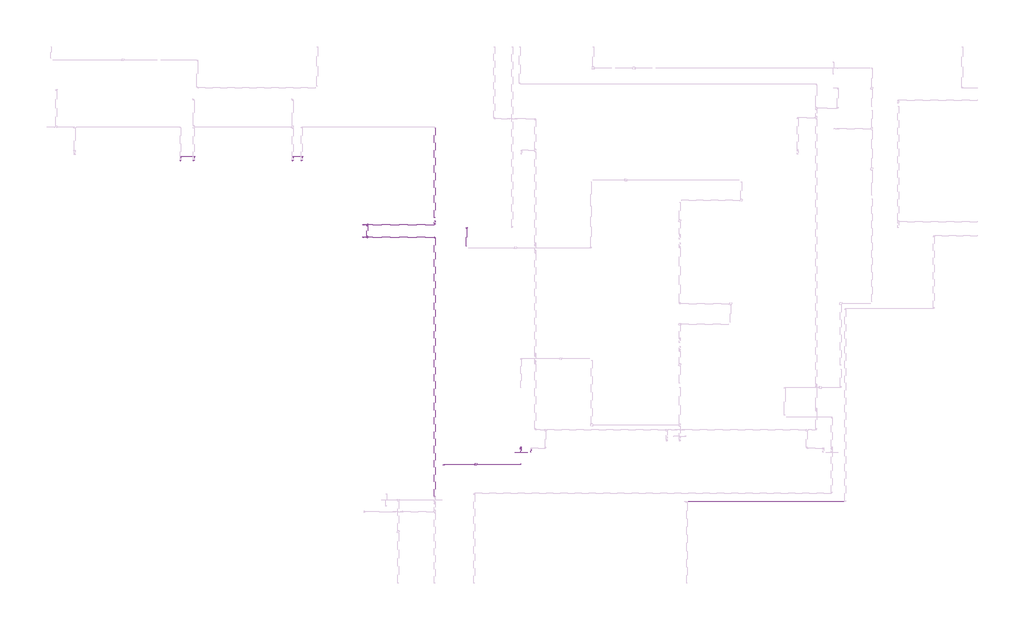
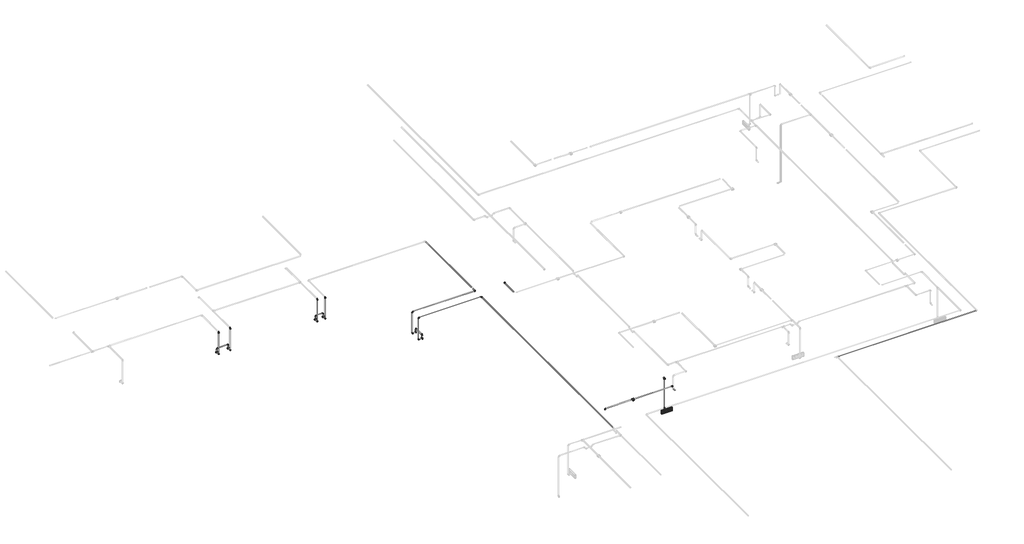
# One storey, part 10 of 40: 33 cable carrier segments, 25 cable carrier fittings, 6 electric appliances, 2 alarms.
"""IFC4 building model written with IfcOpenShell, lengths in millimetres."""

from ifc_helpers import new_model, si_unit, point, frame, frame_2d, origin, place, context, project, spatial, circle_curve, trimmed, segment, composite_curve, outline, extrude, transform, mapped, element, save
from ifc_brep_helpers import plane_surface, cylinder_surface, advanced_brep
from components import alarm_4b7e8fd8, alarm_a2247946, cable_carrier_fitting_69f1a801, cable_carrier_fitting_67f6a775, cable_carrier_fitting_8fd13dfc, electric_appliance_5961a143

model = new_model("IFC4")

# Units and contexts
model_context = context("Model", 3, world=origin())
ifc_project = project(units=[si_unit("LENGTHUNIT", "METRE", prefix="MILLI")], contexts=[model_context])

# Site, building, storey
site = spatial("IfcSite", under=ifc_project)
building = spatial("IfcBuilding", under=site)
storey = spatial("IfcBuildingStorey", under=building, Name="1 этаж", Elevation=0.0)

# Alarms
placement = place(None, origin())
alarm_shape = alarm_4b7e8fd8(model_context)
element("IfcAlarm", 1, ObjectType="RBZ_Оповещатель_Световой_Рубеж_ОПОП1-R3(грань) : ОПОП 1-R3 \"Выход\"", at=placement, inside=storey, context=model_context, shape_type="MappedRepresentation", body=[
    mapped(alarm_shape, transform((8767.6759979, -7495.3629895, 2300.0), x_axis=(1.0, 0.0, 0.0), y_axis=(0.0, 0.0, 1.0), z_axis=(0.0, -1.0, 0.0))),
])
alarm_2_shape = alarm_a2247946(model_context)
element("IfcAlarm", 2, ObjectType="RBZ_ИзоляторШлейфа_Рубеж_ИЗ-1_прот.R3(плоскость) : ИЗ-1 прот.R3", at=placement, inside=storey, context=model_context, shape_type="MappedRepresentation", body=[
    mapped(alarm_2_shape, transform((7660.5729365, -7797.2650251, 3200.0), x_axis=(1.0, 0.0, 0.0), y_axis=(0.0, 1.0, 0.0), z_axis=(0.0, 0.0, 1.0))),
])

# Cable carrier fittings
cable_carrier_fitting_shape = cable_carrier_fitting_69f1a801(model_context)
element("IfcCableCarrierFitting", 3, ObjectType="ADSK_Поворот_Минимальный размер : Неспецифицируемый", at=placement, inside=storey, context=model_context, shape_type="MappedRepresentation", body=[
    mapped(cable_carrier_fitting_shape, transform((6867.6759978, -7797.2650251, 3189.25), x_axis=(-1.0, 0.0, 0.0), y_axis=(0.0, -0.9999999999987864, -1.5579295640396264e-06), z_axis=(0.0, -1.5579295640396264e-06, 0.9999999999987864))),
])
element("IfcCableCarrierFitting", 4, ObjectType="ADSK_Поворот_Минимальный размер : Неспецифицируемый", at=placement, inside=storey, context=model_context, shape_type="MappedRepresentation", body=[
    mapped(cable_carrier_fitting_shape, transform((7427.6759982, -1975.3629895, 3189.8111701), x_axis=(-0.9999999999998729, 0.0, 5.042216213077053e-07), y_axis=(0.0, -1.0, 0.0), z_axis=(5.042216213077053e-07, 0.0, 0.9999999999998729))),
])
element("IfcCableCarrierFitting", 5, ObjectType="ADSK_Поворот_Минимальный размер : Неспецифицируемый", at=placement, inside=storey, context=model_context, shape_type="MappedRepresentation", body=[
    mapped(cable_carrier_fitting_shape, transform((4893.4761923, -1905.3629895, 2535.0527319), x_axis=(-1.0, 0.0, 0.0), y_axis=(0.0, 0.0, 1.0), z_axis=(0.0, 1.0, 0.0))),
])
element("IfcCableCarrierFitting", 6, ObjectType="ADSK_Поворот_Минимальный размер : Неспецифицируемый", at=placement, inside=storey, context=model_context, shape_type="MappedRepresentation", body=[
    mapped(cable_carrier_fitting_shape, transform((4993.6759979, -1905.3629895, 2650.0), x_axis=(0.0, 0.0, 1.0), y_axis=(0.0, -1.0, 0.0), z_axis=(1.0, 0.0, 0.0))),
])
element("IfcCableCarrierFitting", 7, ObjectType="ADSK_Поворот_Минимальный размер : Неспецифицируемый", at=placement, inside=storey, context=model_context, shape_type="MappedRepresentation", body=[
    mapped(cable_carrier_fitting_shape, transform((4993.6759979, -2210.3629895, 2650.0), x_axis=(0.0, 0.0, 1.0), y_axis=(0.0, 1.0, 0.0), z_axis=(-1.0, 0.0, 0.0))),
])
element("IfcCableCarrierFitting", 8, ObjectType="ADSK_Поворот_Минимальный размер : Неспецифицируемый", at=placement, inside=storey, context=model_context, shape_type="MappedRepresentation", body=[
    mapped(cable_carrier_fitting_shape, transform((4893.4761923, -2210.3629895, 2535.0911237), x_axis=(-1.0, 0.0, 0.0), y_axis=(0.0, 0.0, 1.0), z_axis=(0.0, 1.0, 0.0))),
])
element("IfcCableCarrierFitting", 9, ObjectType="ADSK_Поворот_Минимальный размер : Неспецифицируемый", at=placement, inside=storey, context=model_context, shape_type="MappedRepresentation", body=[
    mapped(cable_carrier_fitting_shape, transform((6652.6759979, -2210.3629895, 3187.0), x_axis=(0.0, 1.0, 0.0), y_axis=(-1.0, 0.0, 0.0), z_axis=(0.0, 0.0, 1.0))),
])
element("IfcCableCarrierFitting", 10, ObjectType="ADSK_Поворот_Минимальный размер : Неспецифицируемый", at=placement, inside=storey, context=model_context, shape_type="MappedRepresentation", body=[
    mapped(cable_carrier_fitting_shape, transform((4893.4761923, -2210.3629895, 3187.0), x_axis=(0.0, 0.0, 1.0), y_axis=(1.0, 0.0, 0.0), z_axis=(0.0, 1.0, 0.0))),
])
element("IfcCableCarrierFitting", 11, ObjectType="ADSK_Поворот_Минимальный размер : Неспецифицируемый", at=placement, inside=storey, context=model_context, shape_type="MappedRepresentation", body=[
    mapped(cable_carrier_fitting_shape, transform((3157.6759979, -229.3629895, 2650.0), x_axis=(0.0, 0.0, 1.0), y_axis=(1.0, 0.0, 0.0), z_axis=(0.0, 1.0, 0.0))),
])
element("IfcCableCarrierFitting", 12, ObjectType="ADSK_Поворот_Минимальный размер : Неспецифицируемый", at=placement, inside=storey, context=model_context, shape_type="MappedRepresentation", body=[
    mapped(cable_carrier_fitting_shape, transform((3377.6759979, -229.3629895, 2650.0), x_axis=(0.0, 0.0, 1.0), y_axis=(-1.0, 0.0, 0.0), z_axis=(0.0, -1.0, 0.0))),
])
element("IfcCableCarrierFitting", 13, ObjectType="ADSK_Поворот_Минимальный размер : Неспецифицируемый", at=placement, inside=storey, context=model_context, shape_type="MappedRepresentation", body=[
    mapped(cable_carrier_fitting_shape, transform((3377.6759979, -329.5627951, 2535.0911237), x_axis=(0.0, -1.0, 0.0), y_axis=(0.0, 0.0, 1.0), z_axis=(-1.0, 0.0, 0.0))),
])
element("IfcCableCarrierFitting", 14, ObjectType="ADSK_Поворот_Минимальный размер : Неспецифицируемый", at=placement, inside=storey, context=model_context, shape_type="MappedRepresentation", body=[
    mapped(cable_carrier_fitting_shape, transform((3377.6759979, -329.5627951, 3177.0), x_axis=(0.0, 0.0, 1.0), y_axis=(0.0, 1.0, 0.0), z_axis=(-1.0, 0.0, 0.0))),
])
element("IfcCableCarrierFitting", 15, ObjectType="ADSK_Поворот_Минимальный размер : Неспецифицируемый", at=placement, inside=storey, context=model_context, shape_type="MappedRepresentation", body=[
    mapped(cable_carrier_fitting_shape, transform((3157.6759979, -329.5627951, 2535.0527319), x_axis=(0.0, -1.0, 0.0), y_axis=(0.0, 0.0, 1.0), z_axis=(-1.0, 0.0, 0.0))),
])
element("IfcCableCarrierFitting", 16, ObjectType="ADSK_Поворот_Минимальный размер : Неспецифицируемый", at=placement, inside=storey, context=model_context, shape_type="MappedRepresentation", body=[
    mapped(cable_carrier_fitting_shape, transform((3157.6759979, -329.5627951, 3197.0), x_axis=(0.0, 0.0, 1.0), y_axis=(0.0, 1.0, 0.0), z_axis=(-1.0, 0.0, 0.0))),
])
element("IfcCableCarrierFitting", 17, ObjectType="ADSK_Поворот_Минимальный размер : Неспецифицируемый", at=placement, inside=storey, context=model_context, shape_type="MappedRepresentation", body=[
    mapped(cable_carrier_fitting_shape, transform((402.6759979, -229.3629895, 2650.0), x_axis=(0.0, 0.0, 1.0), y_axis=(1.0, 0.0, 0.0), z_axis=(0.0, 1.0, 0.0))),
])
element("IfcCableCarrierFitting", 18, ObjectType="ADSK_Поворот_Минимальный размер : Неспецифицируемый", at=placement, inside=storey, context=model_context, shape_type="MappedRepresentation", body=[
    mapped(cable_carrier_fitting_shape, transform((722.6759979, -229.3629895, 2650.0), x_axis=(0.0, 0.0, 1.0), y_axis=(-1.0, 0.0, 0.0), z_axis=(0.0, -1.0, 0.0))),
])
element("IfcCableCarrierFitting", 19, ObjectType="ADSK_Поворот_Минимальный размер : Неспецифицируемый", at=placement, inside=storey, context=model_context, shape_type="MappedRepresentation", body=[
    mapped(cable_carrier_fitting_shape, transform((722.6759979, -329.5627951, 2535.0911237), x_axis=(0.0, -1.0, 0.0), y_axis=(0.0, 0.0, 1.0), z_axis=(-1.0, 0.0, 0.0))),
])
element("IfcCableCarrierFitting", 20, ObjectType="ADSK_Поворот_Минимальный размер : Неспецифицируемый", at=placement, inside=storey, context=model_context, shape_type="MappedRepresentation", body=[
    mapped(cable_carrier_fitting_shape, transform((402.6759979, -329.5627951, 2535.0527319), x_axis=(0.0, -1.0, 0.0), y_axis=(0.0, 0.0, 1.0), z_axis=(-1.0, 0.0, 0.0))),
])
element("IfcCableCarrierFitting", 21, ObjectType="ADSK_Поворот_Минимальный размер : Неспецифицируемый", at=placement, inside=storey, context=model_context, shape_type="MappedRepresentation", body=[
    mapped(cable_carrier_fitting_shape, transform((402.6759979, -329.5627951, 3187.0), x_axis=(0.0, 0.0, 1.0), y_axis=(0.0, 1.0, 0.0), z_axis=(-1.0, 0.0, 0.0))),
])
element("IfcCableCarrierFitting", 22, ObjectType="ADSK_Поворот_Минимальный размер : Неспецифицируемый", at=placement, inside=storey, context=model_context, shape_type="MappedRepresentation", body=[
    mapped(cable_carrier_fitting_shape, transform((722.6759979, -329.5627951, 3197.0), x_axis=(0.0, 0.0, 1.0), y_axis=(0.0, 1.0, 0.0), z_axis=(-1.0, 0.0, 0.0))),
])
element("IfcCableCarrierFitting", 23, ObjectType="ADSK_Поворот_Минимальный размер : Неспецифицируемый", at=placement, inside=storey, context=model_context, shape_type="MappedRepresentation", body=[
    mapped(cable_carrier_fitting_shape, transform((8767.6759979, -7398.1631839, 2300.0), x_axis=(0.0, 1.0, 0.0), y_axis=(0.0, 0.0, 1.0), z_axis=(1.0, 0.0, 0.0))),
])
element("IfcCableCarrierFitting", 24, ObjectType="ADSK_Поворот_Минимальный размер : Неспецифицируемый", at=placement, inside=storey, context=model_context, shape_type="MappedRepresentation", body=[
    mapped(cable_carrier_fitting_shape, transform((6652.6759979, -1905.3629895, 3177.0), x_axis=(1.0, 0.0, 0.0), y_axis=(0.0, 1.0, 0.0), z_axis=(0.0, 0.0, 1.0))),
])
element("IfcCableCarrierFitting", 25, ObjectType="ADSK_Поворот_Минимальный размер : Неспецифицируемый", at=placement, inside=storey, context=model_context, shape_type="MappedRepresentation", body=[
    mapped(cable_carrier_fitting_shape, transform((4893.4761923, -1905.3629895, 3177.0), x_axis=(0.0, 0.0, 1.0), y_axis=(1.0, 0.0, 0.0), z_axis=(0.0, 1.0, 0.0))),
])
cable_carrier_fitting_2_shape = cable_carrier_fitting_67f6a775(model_context)
element("IfcCableCarrierFitting", 26, ObjectType="ADSK_Поворот_Минимальный размер : Неспецифицируемый", at=placement, inside=storey, context=model_context, shape_type="MappedRepresentation", body=[
    mapped(cable_carrier_fitting_2_shape, transform((8767.6759979, -7797.2650251, 3189.25), x_axis=(1.0, 0.0, 0.0), y_axis=(0.0, 0.999999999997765, 2.1142999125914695e-06), z_axis=(0.0, -2.1142999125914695e-06, 0.999999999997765))),
])
cable_carrier_fitting_3_shape = cable_carrier_fitting_8fd13dfc(model_context)
element("IfcCableCarrierFitting", 27, ObjectType="ADSK_Тройник : ПВХ", at=placement, inside=storey, context=model_context, shape_type="MappedRepresentation", body=[
    mapped(cable_carrier_fitting_3_shape, transform((8767.6759928, -7398.1631839, 3189.2508438), x_axis=(-1.271655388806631e-08, 0.9999999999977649, 2.1142999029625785e-06), y_axis=(0.0, -2.1142999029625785e-06, 0.999999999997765), z_axis=(1.0, 1.2716553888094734e-08, 0.0))),
])

# Cable carrier segments
element("IfcCableCarrierSegment", 28, ObjectType="Гофрированная труба", at=placement, inside=storey, context=model_context, shape_type="SweptSolid", body=[
    extrude(outline(composite_curve([segment(trimmed(circle_curve(frame_2d((3189.8111701, 7427.6759982)), 10.0), [point((3189.8111751, 7417.6759982))], [point((3179.8111701, 7427.6759931))], False, "CARTESIAN"), True, "CONTINUOUS"), segment(trimmed(circle_curve(frame_2d((3189.8111701, 7427.6759982)), 10.0), [point((3179.8111701, 7427.6759931))], [point((3189.8111651, 7437.6759982))], False, "CARTESIAN"), True, "CONTINUOUS"), segment(trimmed(circle_curve(frame_2d((3189.8111701, 7427.6759982)), 10.0), [point((3189.8111651, 7437.6759982))], [point((3199.8111701, 7427.6760032))], False, "CARTESIAN"), True, "CONTINUOUS"), segment(trimmed(circle_curve(frame_2d((3189.8111701, 7427.6759982)), 10.0), [point((3199.8111701, 7427.6760032))], [point((3189.8111751, 7417.6759982))], False, "CARTESIAN"), True, "CONTINUOUS")], self_intersect=False)), frame((0.0, -2428.8629895, 0.0), z_axis=(0.0, 1.0, 0.0), x_axis=(0.0, 0.0, 1.0)), (0.0, 0.0, 1.0), 432.5),
])
element("IfcCableCarrierSegment", 29, ObjectType="Гофрированная труба", at=placement, inside=storey, context=model_context, shape_type="SweptSolid", body=[
    extrude(outline(composite_curve([segment(trimmed(circle_curve(frame_2d((-7797.2650251, 3189.25)), 10.0), [point((-7787.2650251, 3189.25))], [point((-7797.2650251, 3179.25))], False, "CARTESIAN"), True, "CONTINUOUS"), segment(trimmed(circle_curve(frame_2d((-7797.2650251, 3189.25)), 10.0), [point((-7797.2650251, 3179.25))], [point((-7807.2650251, 3189.25))], False, "CARTESIAN"), True, "CONTINUOUS"), segment(trimmed(circle_curve(frame_2d((-7797.2650251, 3189.25)), 10.0), [point((-7807.2650251, 3189.25))], [point((-7797.2650251, 3199.25))], False, "CARTESIAN"), True, "CONTINUOUS"), segment(trimmed(circle_curve(frame_2d((-7797.2650251, 3189.25)), 10.0), [point((-7797.2650251, 3199.25))], [point((-7787.2650251, 3189.25))], False, "CARTESIAN"), True, "CONTINUOUS")], self_intersect=False)), frame((7686.5729365, 0.0, 0.0), z_axis=(1.0, 0.0, 0.0), x_axis=(0.0, 1.0, 0.0)), (0.0, 0.0, 1.0), 1060.1030612),
])
element("IfcCableCarrierSegment", 30, ObjectType="Гофрированная труба", at=placement, inside=storey, context=model_context, shape_type="SweptSolid", body=[
    extrude(outline(composite_curve([segment(trimmed(circle_curve(frame_2d((-7797.2650251, 3189.25)), 10.0), [point((-7787.2650251, 3189.25))], [point((-7797.2650251, 3179.25))], False, "CARTESIAN"), True, "CONTINUOUS"), segment(trimmed(circle_curve(frame_2d((-7797.2650251, 3189.25)), 10.0), [point((-7797.2650251, 3179.25))], [point((-7807.2650251, 3189.25))], False, "CARTESIAN"), True, "CONTINUOUS"), segment(trimmed(circle_curve(frame_2d((-7797.2650251, 3189.25)), 10.0), [point((-7807.2650251, 3189.25))], [point((-7797.2650251, 3199.25))], False, "CARTESIAN"), True, "CONTINUOUS"), segment(trimmed(circle_curve(frame_2d((-7797.2650251, 3189.25)), 10.0), [point((-7797.2650251, 3199.25))], [point((-7787.2650251, 3189.25))], False, "CARTESIAN"), True, "CONTINUOUS")], self_intersect=False)), frame((6888.6759978, 0.0, 0.0), z_axis=(1.0, 0.0, 0.0), x_axis=(0.0, 1.0, 0.0)), (0.0, 0.0, 1.0), 745.8969386),
])
element("IfcCableCarrierSegment", 31, ObjectType="Гофрированная труба", at=placement, inside=storey, context=model_context, shape_type="SweptSolid", body=[
    extrude(outline(composite_curve([segment(trimmed(circle_curve(frame_2d((-8707.8629895, 3187.0)), 10.0), [point((-8697.8629895, 3187.0))], [point((-8707.8629895, 3177.0))], False, "CARTESIAN"), True, "CONTINUOUS"), segment(trimmed(circle_curve(frame_2d((-8707.8629895, 3187.0)), 10.0), [point((-8707.8629895, 3177.0))], [point((-8717.8629895, 3187.0))], False, "CARTESIAN"), True, "CONTINUOUS"), segment(trimmed(circle_curve(frame_2d((-8707.8629895, 3187.0)), 10.0), [point((-8717.8629895, 3187.0))], [point((-8707.8629895, 3197.0))], False, "CARTESIAN"), True, "CONTINUOUS"), segment(trimmed(circle_curve(frame_2d((-8707.8629895, 3187.0)), 10.0), [point((-8707.8629895, 3197.0))], [point((-8697.8629895, 3187.0))], False, "CARTESIAN"), True, "CONTINUOUS")], self_intersect=False)), frame((12877.6759979, 0.0, 0.0), z_axis=(1.0, 0.0, 0.0), x_axis=(0.0, 1.0, 0.0)), (0.0, 0.0, 1.0), 3841.5),
])
element("IfcCableCarrierSegment", 32, ObjectType="Гофрированная труба", at=placement, inside=storey, context=model_context, shape_type="SweptSolid", body=[
    extrude(outline(composite_curve([segment(trimmed(circle_curve(frame_2d((3187.0, 6652.6759979)), 10.0), [point((3187.0, 6662.6759979))], [point((3197.0, 6652.6759979))], False, "CARTESIAN"), True, "CONTINUOUS"), segment(trimmed(circle_curve(frame_2d((3187.0, 6652.6759979)), 10.0), [point((3197.0, 6652.6759979))], [point((3187.0, 6642.6759979))], False, "CARTESIAN"), True, "CONTINUOUS"), segment(trimmed(circle_curve(frame_2d((3187.0, 6652.6759979)), 10.0), [point((3187.0, 6642.6759979))], [point((3177.0, 6652.6759979))], False, "CARTESIAN"), True, "CONTINUOUS"), segment(trimmed(circle_curve(frame_2d((3187.0, 6652.6759979)), 10.0), [point((3177.0, 6652.6759979))], [point((3187.0, 6662.6759979))], False, "CARTESIAN"), True, "CONTINUOUS")], self_intersect=False)), frame((0.0, -8577.1129893, 0.0), z_axis=(0.0, 1.0, 0.0), x_axis=(0.0, 0.0, 1.0)), (0.0, 0.0, 1.0), 6345.7499998),
])
element("IfcCableCarrierSegment", 33, ObjectType="Гофрированная труба", at=placement, inside=storey, context=model_context, shape_type="SweptSolid", body=[
    extrude(outline(composite_curve([segment(trimmed(circle_curve(frame_2d((-1905.3629895, 3177.0)), 10.0), [point((-1895.3629895, 3177.0))], [point((-1905.3629895, 3167.0))], False, "CARTESIAN"), True, "CONTINUOUS"), segment(trimmed(circle_curve(frame_2d((-1905.3629895, 3177.0)), 10.0), [point((-1905.3629895, 3167.0))], [point((-1915.3629895, 3177.0))], False, "CARTESIAN"), True, "CONTINUOUS"), segment(trimmed(circle_curve(frame_2d((-1905.3629895, 3177.0)), 10.0), [point((-1915.3629895, 3177.0))], [point((-1905.3629895, 3187.0))], False, "CARTESIAN"), True, "CONTINUOUS"), segment(trimmed(circle_curve(frame_2d((-1905.3629895, 3177.0)), 10.0), [point((-1905.3629895, 3187.0))], [point((-1895.3629895, 3177.0))], False, "CARTESIAN"), True, "CONTINUOUS")], self_intersect=False)), frame((4914.4761923, 0.0, 0.0), z_axis=(1.0, 0.0, 0.0), x_axis=(0.0, 1.0, 0.0)), (0.0, 0.0, 1.0), 1717.1998056),
])
element("IfcCableCarrierSegment", 34, ObjectType="Гофрированная труба", at=placement, inside=storey, context=model_context, shape_type="SweptSolid", body=[
    extrude(outline(composite_curve([segment(trimmed(circle_curve(frame_2d((-1905.3629895, 2535.0527319)), 10.0), [point((-1895.3629895, 2535.0527319))], [point((-1905.3629895, 2525.0527319))], False, "CARTESIAN"), True, "CONTINUOUS"), segment(trimmed(circle_curve(frame_2d((-1905.3629895, 2535.0527319)), 10.0), [point((-1905.3629895, 2525.0527319))], [point((-1915.3629895, 2535.0527319))], False, "CARTESIAN"), True, "CONTINUOUS"), segment(trimmed(circle_curve(frame_2d((-1905.3629895, 2535.0527319)), 10.0), [point((-1915.3629895, 2535.0527319))], [point((-1905.3629895, 2545.0527319))], False, "CARTESIAN"), True, "CONTINUOUS"), segment(trimmed(circle_curve(frame_2d((-1905.3629895, 2535.0527319)), 10.0), [point((-1905.3629895, 2545.0527319))], [point((-1895.3629895, 2535.0527319))], False, "CARTESIAN"), True, "CONTINUOUS")], self_intersect=False)), frame((4914.4761923, 0.0, 0.0), z_axis=(1.0, 0.0, 0.0), x_axis=(0.0, 1.0, 0.0)), (0.0, 0.0, 1.0), 76.1998056),
])
element("IfcCableCarrierSegment", 35, ObjectType="Гофрированная труба", at=placement, inside=storey, context=model_context, shape_type="SweptSolid", body=[
    extrude(outline(composite_curve([segment(trimmed(circle_curve(frame_2d((4893.4761923, -1905.3629895)), 10.0), [point((4883.4761923, -1905.3629895))], [point((4893.4761923, -1895.3629895))], False, "CARTESIAN"), True, "CONTINUOUS"), segment(trimmed(circle_curve(frame_2d((4893.4761923, -1905.3629895)), 10.0), [point((4893.4761923, -1895.3629895))], [point((4903.4761923, -1905.3629895))], False, "CARTESIAN"), True, "CONTINUOUS"), segment(trimmed(circle_curve(frame_2d((4893.4761923, -1905.3629895)), 10.0), [point((4903.4761923, -1905.3629895))], [point((4893.4761923, -1915.3629895))], False, "CARTESIAN"), True, "CONTINUOUS"), segment(trimmed(circle_curve(frame_2d((4893.4761923, -1905.3629895)), 10.0), [point((4893.4761923, -1915.3629895))], [point((4883.4761923, -1905.3629895))], False, "CARTESIAN"), True, "CONTINUOUS")], self_intersect=False)), frame((0.0, 0.0, 2556.0527319), z_axis=(0.0, 0.0, 1.0), x_axis=(1.0, 0.0, 0.0)), (0.0, 0.0, 1.0), 599.9472681),
])
element("IfcCableCarrierSegment", 36, ObjectType="Гофрированная труба", at=placement, inside=storey, context=model_context, shape_type="SweptSolid", body=[
    extrude(outline(composite_curve([segment(trimmed(circle_curve(frame_2d((2650.0, 4993.6759979)), 10.0), [point((2650.0, 4983.6759979))], [point((2640.0, 4993.6759979))], False, "CARTESIAN"), True, "CONTINUOUS"), segment(trimmed(circle_curve(frame_2d((2650.0, 4993.6759979)), 10.0), [point((2640.0, 4993.6759979))], [point((2650.0, 5003.6759979))], False, "CARTESIAN"), True, "CONTINUOUS"), segment(trimmed(circle_curve(frame_2d((2650.0, 4993.6759979)), 10.0), [point((2650.0, 5003.6759979))], [point((2660.0, 4993.6759979))], False, "CARTESIAN"), True, "CONTINUOUS"), segment(trimmed(circle_curve(frame_2d((2650.0, 4993.6759979)), 10.0), [point((2660.0, 4993.6759979))], [point((2650.0, 4983.6759979))], False, "CARTESIAN"), True, "CONTINUOUS")], self_intersect=False)), frame((0.0, -2189.3629895, 0.0), z_axis=(0.0, 1.0, 0.0), x_axis=(0.0, 0.0, 1.0)), (0.0, 0.0, 1.0), 263.0),
])
element("IfcCableCarrierSegment", 37, ObjectType="Гофрированная труба", at=placement, inside=storey, context=model_context, shape_type="SweptSolid", body=[
    extrude(outline(composite_curve([segment(trimmed(circle_curve(frame_2d((4993.6759979, -2210.3629895)), 10.0), [point((4983.6759979, -2210.3629895))], [point((4993.6759979, -2200.3629895))], False, "CARTESIAN"), True, "CONTINUOUS"), segment(trimmed(circle_curve(frame_2d((4993.6759979, -2210.3629895)), 10.0), [point((4993.6759979, -2200.3629895))], [point((5003.6759979, -2210.3629895))], False, "CARTESIAN"), True, "CONTINUOUS"), segment(trimmed(circle_curve(frame_2d((4993.6759979, -2210.3629895)), 10.0), [point((5003.6759979, -2210.3629895))], [point((4993.6759979, -2220.3629895))], False, "CARTESIAN"), True, "CONTINUOUS"), segment(trimmed(circle_curve(frame_2d((4993.6759979, -2210.3629895)), 10.0), [point((4993.6759979, -2220.3629895))], [point((4983.6759979, -2210.3629895))], False, "CARTESIAN"), True, "CONTINUOUS")], self_intersect=False)), frame((0.0, 0.0, 2564.1207114), z_axis=(0.0, 0.0, 1.0), x_axis=(1.0, 0.0, 0.0)), (0.0, 0.0, 1.0), 64.8792886),
])
element("IfcCableCarrierSegment", 38, ObjectType="Гофрированная труба", at=placement, inside=storey, context=model_context, shape_type="SweptSolid", body=[
    extrude(outline(composite_curve([segment(trimmed(circle_curve(frame_2d((4993.6759979, -1905.3629895)), 10.0), [point((4983.6759979, -1905.3629895))], [point((4993.6759979, -1895.3629895))], False, "CARTESIAN"), True, "CONTINUOUS"), segment(trimmed(circle_curve(frame_2d((4993.6759979, -1905.3629895)), 10.0), [point((4993.6759979, -1895.3629895))], [point((5003.6759979, -1905.3629895))], False, "CARTESIAN"), True, "CONTINUOUS"), segment(trimmed(circle_curve(frame_2d((4993.6759979, -1905.3629895)), 10.0), [point((5003.6759979, -1905.3629895))], [point((4993.6759979, -1915.3629895))], False, "CARTESIAN"), True, "CONTINUOUS"), segment(trimmed(circle_curve(frame_2d((4993.6759979, -1905.3629895)), 10.0), [point((4993.6759979, -1915.3629895))], [point((4983.6759979, -1905.3629895))], False, "CARTESIAN"), True, "CONTINUOUS")], self_intersect=False)), frame((0.0, 0.0, 2564.0823197), z_axis=(0.0, 0.0, 1.0), x_axis=(1.0, 0.0, 0.0)), (0.0, 0.0, 1.0), 64.9176803),
])
element("IfcCableCarrierSegment", 39, ObjectType="Гофрированная труба", at=placement, inside=storey, context=model_context, shape_type="SweptSolid", body=[
    extrude(outline(composite_curve([segment(trimmed(circle_curve(frame_2d((-2210.3629895, 3187.0)), 10.0), [point((-2200.3629895, 3187.0))], [point((-2210.3629895, 3177.0))], False, "CARTESIAN"), True, "CONTINUOUS"), segment(trimmed(circle_curve(frame_2d((-2210.3629895, 3187.0)), 10.0), [point((-2210.3629895, 3177.0))], [point((-2220.3629895, 3187.0))], False, "CARTESIAN"), True, "CONTINUOUS"), segment(trimmed(circle_curve(frame_2d((-2210.3629895, 3187.0)), 10.0), [point((-2220.3629895, 3187.0))], [point((-2210.3629895, 3197.0))], False, "CARTESIAN"), True, "CONTINUOUS"), segment(trimmed(circle_curve(frame_2d((-2210.3629895, 3187.0)), 10.0), [point((-2210.3629895, 3197.0))], [point((-2200.3629895, 3187.0))], False, "CARTESIAN"), True, "CONTINUOUS")], self_intersect=False)), frame((4914.4761923, 0.0, 0.0), z_axis=(1.0, 0.0, 0.0), x_axis=(0.0, 1.0, 0.0)), (0.0, 0.0, 1.0), 1717.1998056),
])
element("IfcCableCarrierSegment", 40, ObjectType="Гофрированная труба", at=placement, inside=storey, context=model_context, shape_type="SweptSolid", body=[
    extrude(outline(composite_curve([segment(trimmed(circle_curve(frame_2d((-2210.3629895, 2535.0911237)), 10.0), [point((-2200.3629895, 2535.0911237))], [point((-2210.3629895, 2525.0911237))], False, "CARTESIAN"), True, "CONTINUOUS"), segment(trimmed(circle_curve(frame_2d((-2210.3629895, 2535.0911237)), 10.0), [point((-2210.3629895, 2525.0911237))], [point((-2220.3629895, 2535.0911237))], False, "CARTESIAN"), True, "CONTINUOUS"), segment(trimmed(circle_curve(frame_2d((-2210.3629895, 2535.0911237)), 10.0), [point((-2220.3629895, 2535.0911237))], [point((-2210.3629895, 2545.0911237))], False, "CARTESIAN"), True, "CONTINUOUS"), segment(trimmed(circle_curve(frame_2d((-2210.3629895, 2535.0911237)), 10.0), [point((-2210.3629895, 2545.0911237))], [point((-2200.3629895, 2535.0911237))], False, "CARTESIAN"), True, "CONTINUOUS")], self_intersect=False)), frame((4914.4761923, 0.0, 0.0), z_axis=(1.0, 0.0, 0.0), x_axis=(0.0, 1.0, 0.0)), (0.0, 0.0, 1.0), 76.1998056),
])
element("IfcCableCarrierSegment", 41, ObjectType="Гофрированная труба", at=placement, inside=storey, context=model_context, shape_type="SweptSolid", body=[
    extrude(outline(composite_curve([segment(trimmed(circle_curve(frame_2d((4893.4761923, -2210.3629895)), 10.0), [point((4883.4761923, -2210.3629895))], [point((4893.4761923, -2200.3629895))], False, "CARTESIAN"), True, "CONTINUOUS"), segment(trimmed(circle_curve(frame_2d((4893.4761923, -2210.3629895)), 10.0), [point((4893.4761923, -2200.3629895))], [point((4903.4761923, -2210.3629895))], False, "CARTESIAN"), True, "CONTINUOUS"), segment(trimmed(circle_curve(frame_2d((4893.4761923, -2210.3629895)), 10.0), [point((4903.4761923, -2210.3629895))], [point((4893.4761923, -2220.3629895))], False, "CARTESIAN"), True, "CONTINUOUS"), segment(trimmed(circle_curve(frame_2d((4893.4761923, -2210.3629895)), 10.0), [point((4893.4761923, -2220.3629895))], [point((4883.4761923, -2210.3629895))], False, "CARTESIAN"), True, "CONTINUOUS")], self_intersect=False)), frame((0.0, 0.0, 2556.0911237), z_axis=(0.0, 0.0, 1.0), x_axis=(1.0, 0.0, 0.0)), (0.0, 0.0, 1.0), 609.9088763),
])
element("IfcCableCarrierSegment", 42, ObjectType="Гофрированная труба", at=placement, inside=storey, context=model_context, shape_type="SweptSolid", body=[
    extrude(outline(composite_curve([segment(trimmed(circle_curve(frame_2d((3177.0, 6652.6759979)), 10.0), [point((3177.0, 6642.6759979))], [point((3167.0, 6652.6759979))], False, "CARTESIAN"), True, "CONTINUOUS"), segment(trimmed(circle_curve(frame_2d((3177.0, 6652.6759979)), 10.0), [point((3167.0, 6652.6759979))], [point((3177.0, 6662.6759979))], False, "CARTESIAN"), True, "CONTINUOUS"), segment(trimmed(circle_curve(frame_2d((3177.0, 6652.6759979)), 10.0), [point((3177.0, 6662.6759979))], [point((3187.0, 6652.6759979))], False, "CARTESIAN"), True, "CONTINUOUS"), segment(trimmed(circle_curve(frame_2d((3177.0, 6652.6759979)), 10.0), [point((3187.0, 6652.6759979))], [point((3177.0, 6642.6759979))], False, "CARTESIAN"), True, "CONTINUOUS")], self_intersect=False)), frame((0.0, -1737.9012067, 0.0), z_axis=(0.0, 1.0, 0.0), x_axis=(0.0, 0.0, 1.0)), (0.0, 0.0, 1.0), 2211.5382172),
])
element("IfcCableCarrierSegment", 43, ObjectType="Гофрированная труба", at=placement, inside=storey, context=model_context, shape_type="SweptSolid", body=[
    extrude(outline(composite_curve([segment(trimmed(circle_curve(frame_2d((-229.3629895, 2650.0)), 10.0), [point((-239.3629895, 2650.0))], [point((-229.3629895, 2660.0))], False, "CARTESIAN"), True, "CONTINUOUS"), segment(trimmed(circle_curve(frame_2d((-229.3629895, 2650.0)), 10.0), [point((-229.3629895, 2660.0))], [point((-219.3629895, 2650.0))], False, "CARTESIAN"), True, "CONTINUOUS"), segment(trimmed(circle_curve(frame_2d((-229.3629895, 2650.0)), 10.0), [point((-219.3629895, 2650.0))], [point((-229.3629895, 2640.0))], False, "CARTESIAN"), True, "CONTINUOUS"), segment(trimmed(circle_curve(frame_2d((-229.3629895, 2650.0)), 10.0), [point((-229.3629895, 2640.0))], [point((-239.3629895, 2650.0))], False, "CARTESIAN"), True, "CONTINUOUS")], self_intersect=False)), frame((3178.6759979, 0.0, 0.0), z_axis=(1.0, 0.0, 0.0), x_axis=(0.0, 1.0, 0.0)), (0.0, 0.0, 1.0), 178.0),
])
element("IfcCableCarrierSegment", 44, ObjectType="Гофрированная труба", at=placement, inside=storey, context=model_context, shape_type="SweptSolid", body=[
    extrude(outline(composite_curve([segment(trimmed(circle_curve(frame_2d((3377.6759979, -229.3629895)), 10.0), [point((3367.6759979, -229.3629895))], [point((3377.6759979, -219.3629895))], False, "CARTESIAN"), True, "CONTINUOUS"), segment(trimmed(circle_curve(frame_2d((3377.6759979, -229.3629895)), 10.0), [point((3377.6759979, -219.3629895))], [point((3387.6759979, -229.3629895))], False, "CARTESIAN"), True, "CONTINUOUS"), segment(trimmed(circle_curve(frame_2d((3377.6759979, -229.3629895)), 10.0), [point((3387.6759979, -229.3629895))], [point((3377.6759979, -239.3629895))], False, "CARTESIAN"), True, "CONTINUOUS"), segment(trimmed(circle_curve(frame_2d((3377.6759979, -229.3629895)), 10.0), [point((3377.6759979, -239.3629895))], [point((3367.6759979, -229.3629895))], False, "CARTESIAN"), True, "CONTINUOUS")], self_intersect=False)), frame((0.0, 0.0, 2564.1207114), z_axis=(0.0, 0.0, 1.0), x_axis=(1.0, 0.0, 0.0)), (0.0, 0.0, 1.0), 64.8792886),
])
element("IfcCableCarrierSegment", 45, ObjectType="Гофрированная труба", at=placement, inside=storey, context=model_context, shape_type="SweptSolid", body=[
    extrude(outline(composite_curve([segment(trimmed(circle_curve(frame_2d((3157.6759979, -229.3629895)), 10.0), [point((3147.6759979, -229.3629895))], [point((3157.6759979, -219.3629895))], False, "CARTESIAN"), True, "CONTINUOUS"), segment(trimmed(circle_curve(frame_2d((3157.6759979, -229.3629895)), 10.0), [point((3157.6759979, -219.3629895))], [point((3167.6759979, -229.3629895))], False, "CARTESIAN"), True, "CONTINUOUS"), segment(trimmed(circle_curve(frame_2d((3157.6759979, -229.3629895)), 10.0), [point((3167.6759979, -229.3629895))], [point((3157.6759979, -239.3629895))], False, "CARTESIAN"), True, "CONTINUOUS"), segment(trimmed(circle_curve(frame_2d((3157.6759979, -229.3629895)), 10.0), [point((3157.6759979, -239.3629895))], [point((3147.6759979, -229.3629895))], False, "CARTESIAN"), True, "CONTINUOUS")], self_intersect=False)), frame((0.0, 0.0, 2564.0823197), z_axis=(0.0, 0.0, 1.0), x_axis=(1.0, 0.0, 0.0)), (0.0, 0.0, 1.0), 64.9176803),
])
element("IfcCableCarrierSegment", 46, ObjectType="Гофрированная труба", at=placement, inside=storey, context=model_context, shape_type="SweptSolid", body=[
    extrude(outline(composite_curve([segment(trimmed(circle_curve(frame_2d((2535.0911237, 3377.6759979)), 10.0), [point((2535.0911237, 3367.6759979))], [point((2525.0911237, 3377.6759979))], False, "CARTESIAN"), True, "CONTINUOUS"), segment(trimmed(circle_curve(frame_2d((2535.0911237, 3377.6759979)), 10.0), [point((2525.0911237, 3377.6759979))], [point((2535.0911237, 3387.6759979))], False, "CARTESIAN"), True, "CONTINUOUS"), segment(trimmed(circle_curve(frame_2d((2535.0911237, 3377.6759979)), 10.0), [point((2535.0911237, 3387.6759979))], [point((2545.0911237, 3377.6759979))], False, "CARTESIAN"), True, "CONTINUOUS"), segment(trimmed(circle_curve(frame_2d((2535.0911237, 3377.6759979)), 10.0), [point((2545.0911237, 3377.6759979))], [point((2535.0911237, 3367.6759979))], False, "CARTESIAN"), True, "CONTINUOUS")], self_intersect=False)), frame((0.0, -308.5627951, 0.0), z_axis=(0.0, 1.0, 0.0), x_axis=(0.0, 0.0, 1.0)), (0.0, 0.0, 1.0), 76.1998056),
])
element("IfcCableCarrierSegment", 47, ObjectType="Гофрированная труба", at=placement, inside=storey, context=model_context, shape_type="SweptSolid", body=[
    extrude(outline(composite_curve([segment(trimmed(circle_curve(frame_2d((3377.6759979, -329.5627951)), 10.0), [point((3367.6759979, -329.5627951))], [point((3377.6759979, -319.5627951))], False, "CARTESIAN"), True, "CONTINUOUS"), segment(trimmed(circle_curve(frame_2d((3377.6759979, -329.5627951)), 10.0), [point((3377.6759979, -319.5627951))], [point((3387.6759979, -329.5627951))], False, "CARTESIAN"), True, "CONTINUOUS"), segment(trimmed(circle_curve(frame_2d((3377.6759979, -329.5627951)), 10.0), [point((3387.6759979, -329.5627951))], [point((3377.6759979, -339.5627951))], False, "CARTESIAN"), True, "CONTINUOUS"), segment(trimmed(circle_curve(frame_2d((3377.6759979, -329.5627951)), 10.0), [point((3377.6759979, -339.5627951))], [point((3367.6759979, -329.5627951))], False, "CARTESIAN"), True, "CONTINUOUS")], self_intersect=False)), frame((0.0, 0.0, 2556.0911237), z_axis=(0.0, 0.0, 1.0), x_axis=(1.0, 0.0, 0.0)), (0.0, 0.0, 1.0), 599.9088763),
])
element("IfcCableCarrierSegment", 48, ObjectType="Гофрированная труба", at=placement, inside=storey, context=model_context, shape_type="SweptSolid", body=[
    extrude(outline(composite_curve([segment(trimmed(circle_curve(frame_2d((2535.0527319, 3157.6759979)), 10.0), [point((2535.0527319, 3147.6759979))], [point((2525.0527319, 3157.6759979))], False, "CARTESIAN"), True, "CONTINUOUS"), segment(trimmed(circle_curve(frame_2d((2535.0527319, 3157.6759979)), 10.0), [point((2525.0527319, 3157.6759979))], [point((2535.0527319, 3167.6759979))], False, "CARTESIAN"), True, "CONTINUOUS"), segment(trimmed(circle_curve(frame_2d((2535.0527319, 3157.6759979)), 10.0), [point((2535.0527319, 3167.6759979))], [point((2545.0527319, 3157.6759979))], False, "CARTESIAN"), True, "CONTINUOUS"), segment(trimmed(circle_curve(frame_2d((2535.0527319, 3157.6759979)), 10.0), [point((2545.0527319, 3157.6759979))], [point((2535.0527319, 3147.6759979))], False, "CARTESIAN"), True, "CONTINUOUS")], self_intersect=False)), frame((0.0, -308.5627951, 0.0), z_axis=(0.0, 1.0, 0.0), x_axis=(0.0, 0.0, 1.0)), (0.0, 0.0, 1.0), 76.1998056),
])
element("IfcCableCarrierSegment", 49, ObjectType="Гофрированная труба", at=placement, inside=storey, context=model_context, shape_type="SweptSolid", body=[
    extrude(outline(composite_curve([segment(trimmed(circle_curve(frame_2d((3157.6759979, -329.5627951)), 10.0), [point((3147.6759979, -329.5627951))], [point((3157.6759979, -319.5627951))], False, "CARTESIAN"), True, "CONTINUOUS"), segment(trimmed(circle_curve(frame_2d((3157.6759979, -329.5627951)), 10.0), [point((3157.6759979, -319.5627951))], [point((3167.6759979, -329.5627951))], False, "CARTESIAN"), True, "CONTINUOUS"), segment(trimmed(circle_curve(frame_2d((3157.6759979, -329.5627951)), 10.0), [point((3167.6759979, -329.5627951))], [point((3157.6759979, -339.5627951))], False, "CARTESIAN"), True, "CONTINUOUS"), segment(trimmed(circle_curve(frame_2d((3157.6759979, -329.5627951)), 10.0), [point((3157.6759979, -339.5627951))], [point((3147.6759979, -329.5627951))], False, "CARTESIAN"), True, "CONTINUOUS")], self_intersect=False)), frame((0.0, 0.0, 2556.0527319), z_axis=(0.0, 0.0, 1.0), x_axis=(1.0, 0.0, 0.0)), (0.0, 0.0, 1.0), 619.9472681),
])
element("IfcCableCarrierSegment", 50, ObjectType="Гофрированная труба", at=placement, inside=storey, context=model_context, shape_type="SweptSolid", body=[
    extrude(outline(composite_curve([segment(trimmed(circle_curve(frame_2d((-229.3629895, 2650.0)), 10.0), [point((-239.3629895, 2650.0))], [point((-229.3629895, 2660.0))], False, "CARTESIAN"), True, "CONTINUOUS"), segment(trimmed(circle_curve(frame_2d((-229.3629895, 2650.0)), 10.0), [point((-229.3629895, 2660.0))], [point((-219.3629895, 2650.0))], False, "CARTESIAN"), True, "CONTINUOUS"), segment(trimmed(circle_curve(frame_2d((-229.3629895, 2650.0)), 10.0), [point((-219.3629895, 2650.0))], [point((-229.3629895, 2640.0))], False, "CARTESIAN"), True, "CONTINUOUS"), segment(trimmed(circle_curve(frame_2d((-229.3629895, 2650.0)), 10.0), [point((-229.3629895, 2640.0))], [point((-239.3629895, 2650.0))], False, "CARTESIAN"), True, "CONTINUOUS")], self_intersect=False)), frame((423.6759979, 0.0, 0.0), z_axis=(1.0, 0.0, 0.0), x_axis=(0.0, 1.0, 0.0)), (0.0, 0.0, 1.0), 278.0),
])
element("IfcCableCarrierSegment", 51, ObjectType="Гофрированная труба", at=placement, inside=storey, context=model_context, shape_type="SweptSolid", body=[
    extrude(outline(composite_curve([segment(trimmed(circle_curve(frame_2d((722.6759979, -229.3629895)), 10.0), [point((712.6759979, -229.3629895))], [point((722.6759979, -219.3629895))], False, "CARTESIAN"), True, "CONTINUOUS"), segment(trimmed(circle_curve(frame_2d((722.6759979, -229.3629895)), 10.0), [point((722.6759979, -219.3629895))], [point((732.6759979, -229.3629895))], False, "CARTESIAN"), True, "CONTINUOUS"), segment(trimmed(circle_curve(frame_2d((722.6759979, -229.3629895)), 10.0), [point((732.6759979, -229.3629895))], [point((722.6759979, -239.3629895))], False, "CARTESIAN"), True, "CONTINUOUS"), segment(trimmed(circle_curve(frame_2d((722.6759979, -229.3629895)), 10.0), [point((722.6759979, -239.3629895))], [point((712.6759979, -229.3629895))], False, "CARTESIAN"), True, "CONTINUOUS")], self_intersect=False)), frame((0.0, 0.0, 2564.1207114), z_axis=(0.0, 0.0, 1.0), x_axis=(1.0, 0.0, 0.0)), (0.0, 0.0, 1.0), 64.8792886),
])
element("IfcCableCarrierSegment", 52, ObjectType="Гофрированная труба", at=placement, inside=storey, context=model_context, shape_type="SweptSolid", body=[
    extrude(outline(composite_curve([segment(trimmed(circle_curve(frame_2d((402.6759979, -229.3629895)), 10.0), [point((392.6759979, -229.3629895))], [point((402.6759979, -219.3629895))], False, "CARTESIAN"), True, "CONTINUOUS"), segment(trimmed(circle_curve(frame_2d((402.6759979, -229.3629895)), 10.0), [point((402.6759979, -219.3629895))], [point((412.6759979, -229.3629895))], False, "CARTESIAN"), True, "CONTINUOUS"), segment(trimmed(circle_curve(frame_2d((402.6759979, -229.3629895)), 10.0), [point((412.6759979, -229.3629895))], [point((402.6759979, -239.3629895))], False, "CARTESIAN"), True, "CONTINUOUS"), segment(trimmed(circle_curve(frame_2d((402.6759979, -229.3629895)), 10.0), [point((402.6759979, -239.3629895))], [point((392.6759979, -229.3629895))], False, "CARTESIAN"), True, "CONTINUOUS")], self_intersect=False)), frame((0.0, 0.0, 2564.0823197), z_axis=(0.0, 0.0, 1.0), x_axis=(1.0, 0.0, 0.0)), (0.0, 0.0, 1.0), 64.9176803),
])
element("IfcCableCarrierSegment", 53, ObjectType="Гофрированная труба", at=placement, inside=storey, context=model_context, shape_type="SweptSolid", body=[
    extrude(outline(composite_curve([segment(trimmed(circle_curve(frame_2d((2535.0911237, 722.6759979)), 10.0), [point((2535.0911237, 712.6759979))], [point((2525.0911237, 722.6759979))], False, "CARTESIAN"), True, "CONTINUOUS"), segment(trimmed(circle_curve(frame_2d((2535.0911237, 722.6759979)), 10.0), [point((2525.0911237, 722.6759979))], [point((2535.0911237, 732.6759979))], False, "CARTESIAN"), True, "CONTINUOUS"), segment(trimmed(circle_curve(frame_2d((2535.0911237, 722.6759979)), 10.0), [point((2535.0911237, 732.6759979))], [point((2545.0911237, 722.6759979))], False, "CARTESIAN"), True, "CONTINUOUS"), segment(trimmed(circle_curve(frame_2d((2535.0911237, 722.6759979)), 10.0), [point((2545.0911237, 722.6759979))], [point((2535.0911237, 712.6759979))], False, "CARTESIAN"), True, "CONTINUOUS")], self_intersect=False)), frame((0.0, -308.5627951, 0.0), z_axis=(0.0, 1.0, 0.0), x_axis=(0.0, 0.0, 1.0)), (0.0, 0.0, 1.0), 76.1998056),
])
element("IfcCableCarrierSegment", 54, ObjectType="Гофрированная труба", at=placement, inside=storey, context=model_context, shape_type="SweptSolid", body=[
    extrude(outline(composite_curve([segment(trimmed(circle_curve(frame_2d((722.6759979, -329.5627951)), 10.0), [point((712.6759979, -329.5627951))], [point((722.6759979, -319.5627951))], False, "CARTESIAN"), True, "CONTINUOUS"), segment(trimmed(circle_curve(frame_2d((722.6759979, -329.5627951)), 10.0), [point((722.6759979, -319.5627951))], [point((732.6759979, -329.5627951))], False, "CARTESIAN"), True, "CONTINUOUS"), segment(trimmed(circle_curve(frame_2d((722.6759979, -329.5627951)), 10.0), [point((732.6759979, -329.5627951))], [point((722.6759979, -339.5627951))], False, "CARTESIAN"), True, "CONTINUOUS"), segment(trimmed(circle_curve(frame_2d((722.6759979, -329.5627951)), 10.0), [point((722.6759979, -339.5627951))], [point((712.6759979, -329.5627951))], False, "CARTESIAN"), True, "CONTINUOUS")], self_intersect=False)), frame((0.0, 0.0, 2556.0911237), z_axis=(0.0, 0.0, 1.0), x_axis=(1.0, 0.0, 0.0)), (0.0, 0.0, 1.0), 619.9088763),
])
element("IfcCableCarrierSegment", 55, ObjectType="Гофрированная труба", at=placement, inside=storey, context=model_context, shape_type="SweptSolid", body=[
    extrude(outline(composite_curve([segment(trimmed(circle_curve(frame_2d((2535.0527319, 402.6759979)), 10.0), [point((2535.0527319, 392.6759979))], [point((2525.0527319, 402.6759979))], False, "CARTESIAN"), True, "CONTINUOUS"), segment(trimmed(circle_curve(frame_2d((2535.0527319, 402.6759979)), 10.0), [point((2525.0527319, 402.6759979))], [point((2535.0527319, 412.6759979))], False, "CARTESIAN"), True, "CONTINUOUS"), segment(trimmed(circle_curve(frame_2d((2535.0527319, 402.6759979)), 10.0), [point((2535.0527319, 412.6759979))], [point((2545.0527319, 402.6759979))], False, "CARTESIAN"), True, "CONTINUOUS"), segment(trimmed(circle_curve(frame_2d((2535.0527319, 402.6759979)), 10.0), [point((2545.0527319, 402.6759979))], [point((2535.0527319, 392.6759979))], False, "CARTESIAN"), True, "CONTINUOUS")], self_intersect=False)), frame((0.0, -308.5627951, 0.0), z_axis=(0.0, 1.0, 0.0), x_axis=(0.0, 0.0, 1.0)), (0.0, 0.0, 1.0), 76.1998056),
])
element("IfcCableCarrierSegment", 56, ObjectType="Гофрированная труба", at=placement, inside=storey, context=model_context, shape_type="SweptSolid", body=[
    extrude(outline(composite_curve([segment(trimmed(circle_curve(frame_2d((402.6759979, -329.5627951)), 10.0), [point((392.6759979, -329.5627951))], [point((402.6759979, -319.5627951))], False, "CARTESIAN"), True, "CONTINUOUS"), segment(trimmed(circle_curve(frame_2d((402.6759979, -329.5627951)), 10.0), [point((402.6759979, -319.5627951))], [point((412.6759979, -329.5627951))], False, "CARTESIAN"), True, "CONTINUOUS"), segment(trimmed(circle_curve(frame_2d((402.6759979, -329.5627951)), 10.0), [point((412.6759979, -329.5627951))], [point((402.6759979, -339.5627951))], False, "CARTESIAN"), True, "CONTINUOUS"), segment(trimmed(circle_curve(frame_2d((402.6759979, -329.5627951)), 10.0), [point((402.6759979, -339.5627951))], [point((392.6759979, -329.5627951))], False, "CARTESIAN"), True, "CONTINUOUS")], self_intersect=False)), frame((0.0, 0.0, 2556.0527319), z_axis=(0.0, 0.0, 1.0), x_axis=(1.0, 0.0, 0.0)), (0.0, 0.0, 1.0), 609.9472681),
])
element("IfcCableCarrierSegment", 57, ObjectType="Гофрированная труба", at=placement, inside=storey, context=model_context, shape_type="SweptSolid", body=[
    extrude(outline(composite_curve([segment(trimmed(circle_curve(frame_2d((2797.4861504, 9012.6759979)), 10.0), [point((2797.4861504, 9022.6759979))], [point((2807.4861504, 9012.6759979))], False, "CARTESIAN"), True, "CONTINUOUS"), segment(trimmed(circle_curve(frame_2d((2797.4861504, 9012.6759979)), 10.0), [point((2807.4861504, 9012.6759979))], [point((2797.4861504, 9002.6759979))], False, "CARTESIAN"), True, "CONTINUOUS"), segment(trimmed(circle_curve(frame_2d((2797.4861504, 9012.6759979)), 10.0), [point((2797.4861504, 9002.6759979))], [point((2787.4861504, 9012.6759979))], False, "CARTESIAN"), True, "CONTINUOUS"), segment(trimmed(circle_curve(frame_2d((2797.4861504, 9012.6759979)), 10.0), [point((2787.4861504, 9012.6759979))], [point((2797.4861504, 9022.6759979))], False, "CARTESIAN"), True, "CONTINUOUS")], self_intersect=False)), frame((0.0, -7495.3629895, 0.0), z_axis=(0.0, 1.0, 0.0), x_axis=(0.0, 0.0, 1.0)), (0.0, 0.0, 1.0), 76.1998056),
])
element("IfcCableCarrierSegment", 58, ObjectType="Гофрированная труба", at=placement, inside=storey, context=model_context, shape_type="SweptSolid", body=[
    extrude(outline(composite_curve([segment(trimmed(circle_curve(frame_2d((2300.0, 8767.6759979)), 10.0), [point((2300.0, 8777.6759979))], [point((2310.0, 8767.6759979))], False, "CARTESIAN"), True, "CONTINUOUS"), segment(trimmed(circle_curve(frame_2d((2300.0, 8767.6759979)), 10.0), [point((2310.0, 8767.6759979))], [point((2300.0, 8757.6759979))], False, "CARTESIAN"), True, "CONTINUOUS"), segment(trimmed(circle_curve(frame_2d((2300.0, 8767.6759979)), 10.0), [point((2300.0, 8757.6759979))], [point((2290.0, 8767.6759979))], False, "CARTESIAN"), True, "CONTINUOUS"), segment(trimmed(circle_curve(frame_2d((2300.0, 8767.6759979)), 10.0), [point((2290.0, 8767.6759979))], [point((2300.0, 8777.6759979))], False, "CARTESIAN"), True, "CONTINUOUS")], self_intersect=False)), frame((0.0, -7495.3629895, 0.0), z_axis=(0.0, 1.0, 0.0), x_axis=(0.0, 0.0, 1.0)), (0.0, 0.0, 1.0), 76.1998056),
])
element("IfcCableCarrierSegment", 59, ObjectType="Гофрированная труба", at=placement, inside=storey, context=model_context, shape_type="AdvancedBrep", body=[
    advanced_brep(
    [(8777.6759928, -7398.1631204, 3159.2508439), (8767.6759928, -7388.1631204, 3159.2508431), (8757.6759928, -7398.1631204, 3159.2508438), (8767.6759928, -7408.1631204, 3159.2508446), (8777.6759979, -7398.1631839, 2321.0000001), (8767.6759979, -7408.1631839, 2321.0000008), (8757.6759979, -7398.1631839, 2320.9999999), (8767.6759979, -7388.1631839, 2320.9999992)],
    [
        (0, 1, circle_curve(frame((8767.6759928, -7398.1631204, 3159.2508439), z_axis=(0.0, 7.56682334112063e-08, 0.9999999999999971), x_axis=(1.0, 0.0, 0.0)), 10.0)),
        (1, 2, circle_curve(frame((8767.6759928, -7398.1631204, 3159.2508438), z_axis=(0.0, 7.56682334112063e-08, 0.9999999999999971), x_axis=(1.0, 0.0, 0.0)), 10.0)),
        (2, 3, circle_curve(frame((8767.6759928, -7398.1631204, 3159.2508438), z_axis=(0.0, 7.56682334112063e-08, 0.9999999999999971), x_axis=(1.0, 0.0, 0.0)), 10.0)),
        (3, 0, circle_curve(frame((8767.6759928, -7398.1631204, 3159.2508438), z_axis=(0.0, 7.56682334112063e-08, 0.9999999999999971), x_axis=(1.0, 0.0, 0.0)), 10.0)),
        (4, 5, circle_curve(frame((8767.6759928, -7398.1631839, 2321.0000001), z_axis=(0.0, -7.56682334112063e-08, -0.9999999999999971), x_axis=(1.0, 0.0, 0.0)), 10.0000051)),
        (5, 6, circle_curve(frame((8767.6759928, -7398.1631839, 2321.0), z_axis=(0.0, -7.56682334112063e-08, -0.9999999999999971), x_axis=(1.0, 0.0, 0.0)), 10.0)),
        (6, 7, circle_curve(frame((8767.6759928, -7398.1631839, 2320.9999999), z_axis=(0.0, -7.56682334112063e-08, -0.9999999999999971), x_axis=(1.0, 0.0, 0.0)), 9.9999949)),
        (7, 4, circle_curve(frame((8767.6759928, -7398.1631839, 2321.0), z_axis=(0.0, -7.56682334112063e-08, -0.9999999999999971), x_axis=(1.0, 0.0, 0.0)), 10.0)),
        (0, 4),
        (7, 1),
        (6, 2),
        (5, 3),
    ],
    [
        plane_surface(frame((8767.6759928, -7408.1631204, 3159.2508446), z_axis=(-6.054493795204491e-09, 7.566823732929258e-08, 0.9999999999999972), x_axis=(-1.0, 0.0, -6.0544937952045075e-09))),
        plane_surface(frame((8767.6759979, -7408.1631839, 2321.0000008), z_axis=(6.054494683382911e-09, -7.566823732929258e-08, -0.9999999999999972), x_axis=(-1.0, 0.0, -6.054494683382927e-09))),
        cylinder_surface(frame((8767.6759928, -7398.1631204, 3159.2508438), z_axis=(0.0, 7.56682334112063e-08, 0.9999999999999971), x_axis=(1.0, 0.0, 0.0)), 10.0),
    ],
    [
        (0, [[1, 2, 3, 4]]),
        (1, [[5, 6, 7, 8]]),
        (2, [[-1, 9, -8, 10]]),
        (2, [[-2, -10, -7, 11]]),
        (2, [[-3, -11, -6, 12]]),
        (2, [[-4, -12, -5, -9]]),
    ],
),
])
element("IfcCableCarrierSegment", 60, ObjectType="Гофрированная труба", at=placement, inside=storey, context=model_context, shape_type="SweptSolid", body=[
    extrude(outline(composite_curve([segment(trimmed(circle_curve(frame_2d((3177.0, 6652.6759979)), 10.0), [point((3177.0, 6642.6759979))], [point((3167.0, 6652.6759979))], False, "CARTESIAN"), True, "CONTINUOUS"), segment(trimmed(circle_curve(frame_2d((3177.0, 6652.6759979)), 10.0), [point((3167.0, 6652.6759979))], [point((3177.0, 6662.6759979))], False, "CARTESIAN"), True, "CONTINUOUS"), segment(trimmed(circle_curve(frame_2d((3177.0, 6652.6759979)), 10.0), [point((3177.0, 6662.6759979))], [point((3187.0, 6652.6759979))], False, "CARTESIAN"), True, "CONTINUOUS"), segment(trimmed(circle_curve(frame_2d((3177.0, 6652.6759979)), 10.0), [point((3187.0, 6652.6759979))], [point((3177.0, 6642.6759979))], False, "CARTESIAN"), True, "CONTINUOUS")], self_intersect=False)), frame((0.0, -1884.3629895, 0.0), z_axis=(0.0, 1.0, 0.0), x_axis=(0.0, 0.0, 1.0)), (0.0, 0.0, 1.0), 81.5),
])

# Electric appliances
electric_appliance_shape = electric_appliance_5961a143(model_context)
element("IfcElectricAppliance", 61, ObjectType="RBZ_Извещатель_ОхранныйМагнитоуправляемый _Рубеж_ИО 10220-2(грань) : ИО 10220-2", at=placement, inside=storey, context=model_context, shape_type="MappedRepresentation", body=[
    mapped(electric_appliance_shape, transform((4990.6759979, -1905.3629895, 2546.9616082), x_axis=(0.0, -1.0, 0.0), y_axis=(0.0, 0.0, -1.0), z_axis=(1.0, 0.0, 0.0))),
])
element("IfcElectricAppliance", 62, ObjectType="RBZ_Извещатель_ОхранныйМагнитоуправляемый _Рубеж_ИО 10220-2(грань) : ИО 10220-2", at=placement, inside=storey, context=model_context, shape_type="MappedRepresentation", body=[
    mapped(electric_appliance_shape, transform((4990.6759979, -2210.3629895, 2547.0), x_axis=(0.0, -1.0, 0.0), y_axis=(0.0, 0.0, -1.0), z_axis=(1.0, 0.0, 0.0))),
])
element("IfcElectricAppliance", 63, ObjectType="RBZ_Извещатель_ОхранныйМагнитоуправляемый _Рубеж_ИО 10220-2(грань) : ИО 10220-2", at=placement, inside=storey, context=model_context, shape_type="MappedRepresentation", body=[
    mapped(electric_appliance_shape, transform((3377.6759979, -232.3629895, 2547.0), x_axis=(1.0, 0.0, 0.0), y_axis=(0.0, 0.0, -1.0), z_axis=(0.0, 1.0, 0.0))),
])
element("IfcElectricAppliance", 64, ObjectType="RBZ_Извещатель_ОхранныйМагнитоуправляемый _Рубеж_ИО 10220-2(грань) : ИО 10220-2", at=placement, inside=storey, context=model_context, shape_type="MappedRepresentation", body=[
    mapped(electric_appliance_shape, transform((3157.6759979, -232.3629895, 2546.9616082), x_axis=(1.0, 0.0, 0.0), y_axis=(0.0, 0.0, -1.0), z_axis=(0.0, 1.0, 0.0))),
])
element("IfcElectricAppliance", 65, ObjectType="RBZ_Извещатель_ОхранныйМагнитоуправляемый _Рубеж_ИО 10220-2(грань) : ИО 10220-2", at=placement, inside=storey, context=model_context, shape_type="MappedRepresentation", body=[
    mapped(electric_appliance_shape, transform((722.6759979, -232.3629895, 2547.0), x_axis=(1.0, 0.0, 0.0), y_axis=(0.0, 0.0, -1.0), z_axis=(0.0, 1.0, 0.0))),
])
element("IfcElectricAppliance", 66, ObjectType="RBZ_Извещатель_ОхранныйМагнитоуправляемый _Рубеж_ИО 10220-2(грань) : ИО 10220-2", at=placement, inside=storey, context=model_context, shape_type="MappedRepresentation", body=[
    mapped(electric_appliance_shape, transform((402.6759979, -232.3629895, 2546.9616082), x_axis=(1.0, 0.0, 0.0), y_axis=(0.0, 0.0, -1.0), z_axis=(0.0, 1.0, 0.0))),
])

save(model, "model.ifc")
